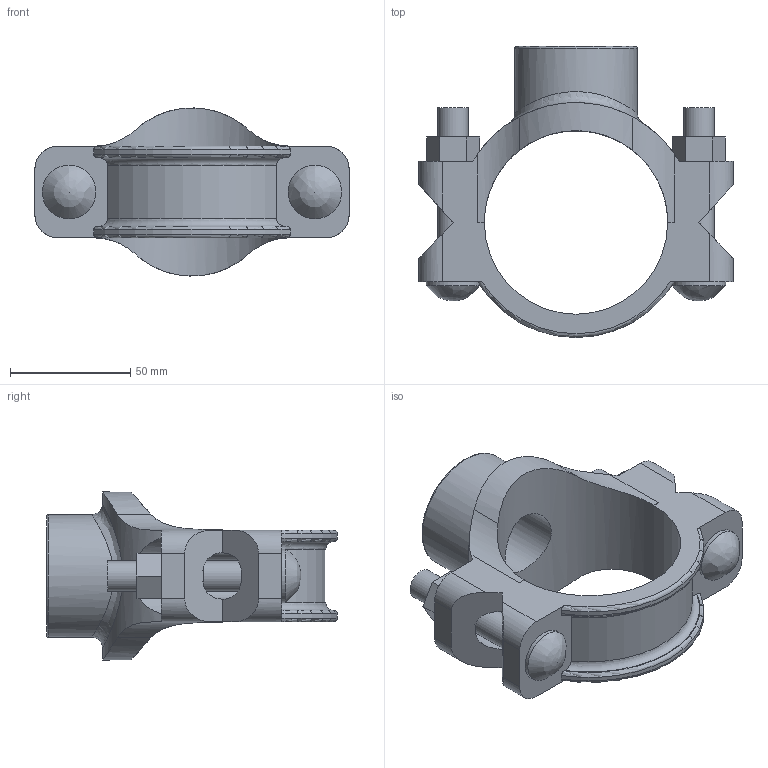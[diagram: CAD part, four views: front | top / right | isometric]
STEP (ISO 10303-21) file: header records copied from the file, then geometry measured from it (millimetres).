
FILE_DESCRIPTION(/* description */ ('VIC SS MECHANICAL T BRANCH OUTLET STYLE 422 (BSPP)','CAx-IF Rec.Pracs.---Representation and Presentation of Product Manufacturing Information (PMI)---4.0---2014-10-13'),/* implementation_level */ '2;1');
FILE_NAME(/* name */ 'C:\Files for Export\422\STEP\Victaulic_SS-OGS_Mech-Tee Out_Style 422 (BSPP)\Victaulic_SS-OGS_Mech-Tee Out_Style 422 (BSPP)_02.5 (76.1)x01.0 (65x25).stp',/* time_stamp */ '2023-03-28T14:24:02+02:00',/* author */ ('jheald'),/* organization */ ('Victaulic'),/* preprocessor_version */ 'ST-DEVELOPER v18.1',/* originating_system */ 'Autodesk Inventor 2020',/* authorisation */ '');
FILE_SCHEMA (('AP242_MANAGED_MODEL_BASED_3D_ENGINEERING_MIM_LF { 1 0 10303 442 1 1 4 }'));
Length unit declared in the file: inch
Products named in the file (1): 422-02.5 (76.1)x01.0
Bounding box: 130.56 x 120.9 x 69.81 mm (x, y, z)
Volume: 196592.5 mm3; surface area: 54565.6 mm2
Topology: 1 solids, 1 shells, 92 faces, 280 edges, 186 vertices
Faces by surface type: plane 48, cylinder 34, torus 7, bspline 3
Full cylindrical faces by diameter (mm): 12.7 x4, 22.225 x2, 26.987 x1, 33.401 x1, 50.8 x1, 76.2 x1
Entity records: 3938 total; most frequent: CARTESIAN_POINT 1170, ORIENTED_EDGE 556, DIRECTION 552, EDGE_CURVE 278, AXIS2_PLACEMENT_3D 200, VERTEX_POINT 186, LINE 152, VECTOR 152
